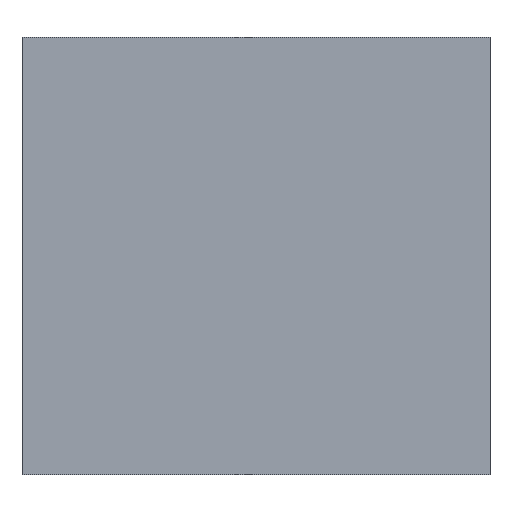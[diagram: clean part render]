
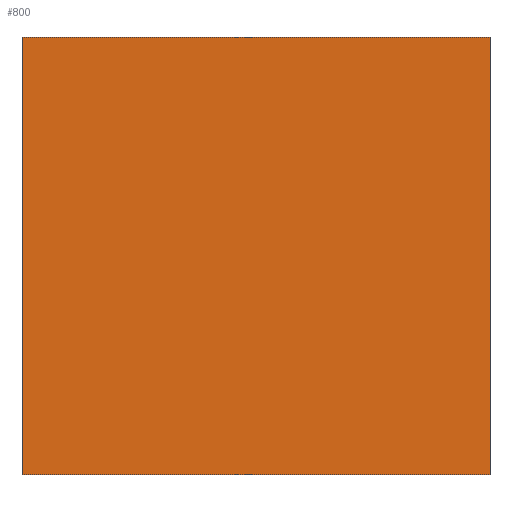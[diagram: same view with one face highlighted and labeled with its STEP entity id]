
A CAD part, top view. The second image highlights one B-rep face of the part: STEP entity #800.
In plain terms, the highlighted planar face has unit normal (0, 0, 1).
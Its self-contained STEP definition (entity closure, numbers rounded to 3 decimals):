
#410=CARTESIAN_POINT('',(0.,0.,1.));
#420=DIRECTION('',(0.,0.,1.));
#430=DIRECTION('',(1.,0.,0.));
#440=AXIS2_PLACEMENT_3D('',#410,#420,#430);
#450=PLANE('',#440);
#460=CARTESIAN_POINT('',(62.092,25.166,1.));
#470=DIRECTION('',(0.,-1.,0.));
#480=VECTOR('',#470,1.);
#490=LINE('',#460,#480);
#500=CARTESIAN_POINT('',(62.092,25.166,1.));
#510=VERTEX_POINT('',#500);
#520=CARTESIAN_POINT('',(62.092,-1.034,1.));
#530=VERTEX_POINT('',#520);
#540=EDGE_CURVE('',#510,#530,#490,.T.);
#550=ORIENTED_EDGE('',*,*,#540,.F.);
#560=CARTESIAN_POINT('',(62.092,-1.034,1.));
#570=DIRECTION('',(-1.,0.,0.));
#580=VECTOR('',#570,1.);
#590=LINE('',#560,#580);
#600=CARTESIAN_POINT('',(34.092,-1.034,1.));
#610=VERTEX_POINT('',#600);
#620=EDGE_CURVE('',#530,#610,#590,.T.);
#630=ORIENTED_EDGE('',*,*,#620,.F.);
#640=CARTESIAN_POINT('',(34.092,-1.034,1.));
#650=DIRECTION('',(0.,1.,0.));
#660=VECTOR('',#650,1.);
#670=LINE('',#640,#660);
#680=CARTESIAN_POINT('',(34.092,25.166,1.));
#690=VERTEX_POINT('',#680);
#700=EDGE_CURVE('',#610,#690,#670,.T.);
#710=ORIENTED_EDGE('',*,*,#700,.F.);
#720=CARTESIAN_POINT('',(34.092,25.166,1.));
#730=DIRECTION('',(1.,0.,0.));
#740=VECTOR('',#730,1.);
#750=LINE('',#720,#740);
#760=EDGE_CURVE('',#690,#510,#750,.T.);
#770=ORIENTED_EDGE('',*,*,#760,.F.);
#780=EDGE_LOOP('',(#770,#710,#630,#550));
#790=FACE_OUTER_BOUND('',#780,.T.);
#800=ADVANCED_FACE('',(#790),#450,.T.);
